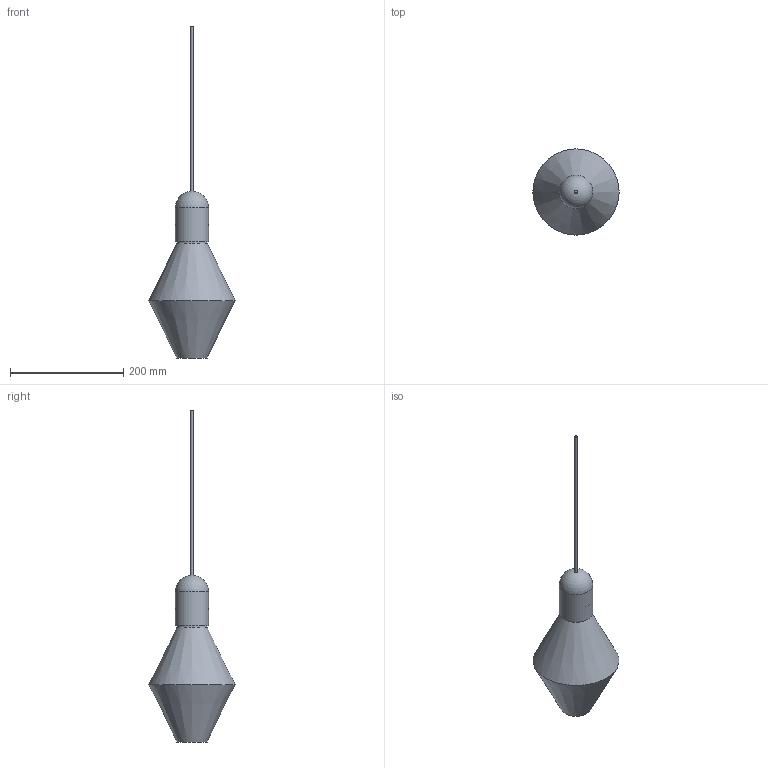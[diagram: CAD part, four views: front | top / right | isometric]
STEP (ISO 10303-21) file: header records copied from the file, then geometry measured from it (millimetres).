
FILE_DESCRIPTION(/* description */ ('','CAx-IF Rec.Pracs.---Representation and Presentation of Product Manufacturing Information (PMI)---4.0---2014-10-13'),/* implementation_level */ '2;1');
FILE_NAME(/* name */ 'Niche - Marquise - Placebo Pendant.step',/* time_stamp */ '2025-01-09T10:42:53-05:00',/* author */ (''),/* organization */ (''),/* preprocessor_version */ 'ST-DEVELOPER v20',/* originating_system */ 'Autodesk Translation Framework v13.20.0.188',/* authorisation */ '');
FILE_SCHEMA (('AP242_MANAGED_MODEL_BASED_3D_ENGINEERING_MIM_LF { 1 0 10303 442 1 1 4 }'));
Length unit declared in the file: inch
Products named in the file (4): Marquise - Modular; Modular - Placebo - Bayonet Connector; Marquise Modular; Modular - Placedo - Cord Set
Assembly tree (3 placements, depth 2):
  Marquise - Modular
    Modular - Placebo - Bayonet Connector
    Marquise Modular
    Modular - Placedo - Cord Set
Bounding box: 152.4 x 152.4 x 586.74 mm (x, y, z)
Volume: 216129.4 mm3; surface area: 202667.8 mm2
Topology: 5 solids, 5 shells, 102 faces, 267 edges, 176 vertices
Faces by surface type: plane 67, cylinder 25, torus 4, cone 4, sphere 2
Full cylindrical faces by diameter (mm): 4.572 x1, 5.715 x1, 37.592 x1, 42.926 x1, 46.482 x1, 50.038 x1, 53.848 x1, 56.032 x1, 59.08 x1
Entity records: 3391 total; most frequent: CARTESIAN_POINT 676, DIRECTION 555, ORIENTED_EDGE 534, EDGE_CURVE 267, AXIS2_PLACEMENT_3D 191, VERTEX_POINT 176, LINE 173, VECTOR 173
